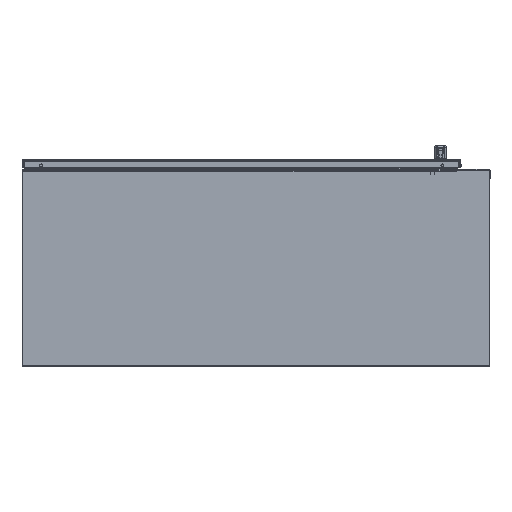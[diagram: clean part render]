
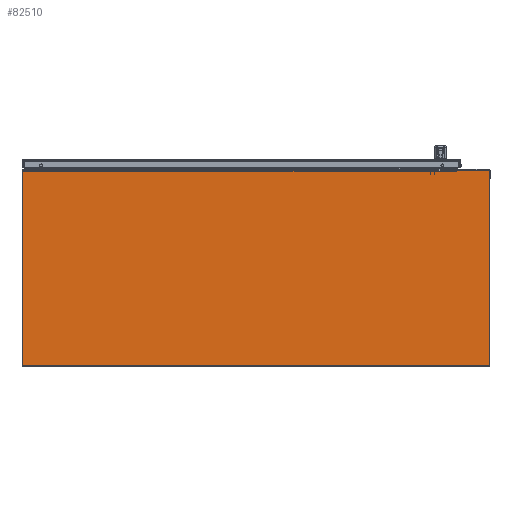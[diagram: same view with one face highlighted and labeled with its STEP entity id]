
A CAD part, front view. The second image highlights one B-rep face of the part: STEP entity #82510.
In plain terms, the highlighted planar face has unit normal (0, -1, 0) as drawn and (0, 0, 1) by its records, which use the part's own axes.
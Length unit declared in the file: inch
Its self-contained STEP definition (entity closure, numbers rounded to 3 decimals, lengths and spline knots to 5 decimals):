
#558 = CARTESIAN_POINT ( 'NONE',  ( -18.13, 15.763, 0.072 ) ) ;
#1298 = CARTESIAN_POINT ( 'NONE',  ( 19.668, 0., 0.072 ) ) ;
#3079 = DIRECTION ( 'NONE',  ( 0., -1., 0. ) ) ;
#3242 = VERTEX_POINT ( 'NONE', #30944 ) ;
#5990 = LINE ( 'NONE', #99715, #69474 ) ;
#6683 = ORIENTED_EDGE ( 'NONE', *, *, #49755, .T. ) ;
#9430 = ORIENTED_EDGE ( 'NONE', *, *, #45693, .T. ) ;
#12569 = LINE ( 'NONE', #63234, #79994 ) ;
#12961 = CARTESIAN_POINT ( 'NONE',  ( 16.99, 15.85, 0.072 ) ) ;
#14003 = CARTESIAN_POINT ( 'NONE',  ( -18.13, 0., 0.072 ) ) ;
#17357 = EDGE_CURVE ( 'NONE', #51949, #38848, #97165, .T. ) ;
#30929 = LINE ( 'NONE', #68652, #77588 ) ;
#30944 = CARTESIAN_POINT ( 'NONE',  ( 16.99, 15.763, 0.072 ) ) ;
#31543 = DIRECTION ( 'NONE',  ( 0., 1., 0. ) ) ;
#34958 = EDGE_CURVE ( 'NONE', #3242, #94383, #80792, .T. ) ;
#38848 = VERTEX_POINT ( 'NONE', #64818 ) ;
#43570 = LINE ( 'NONE', #56866, #103301 ) ;
#45693 = EDGE_CURVE ( 'NONE', #60947, #59664, #12569, .T. ) ;
#48083 = ORIENTED_EDGE ( 'NONE', *, *, #64087, .T. ) ;
#49755 = EDGE_CURVE ( 'NONE', #94383, #60947, #30929, .T. ) ;
#50463 = VECTOR ( 'NONE', #71627, 39.37008 ) ;
#51160 = FACE_OUTER_BOUND ( 'NONE', #81945, .T. ) ;
#51949 = VERTEX_POINT ( 'NONE', #100776 ) ;
#56866 = CARTESIAN_POINT ( 'NONE',  ( 19.668, 15.925, 0.072 ) ) ;
#59664 = VERTEX_POINT ( 'NONE', #1298 ) ;
#60947 = VERTEX_POINT ( 'NONE', #80532 ) ;
#63234 = CARTESIAN_POINT ( 'NONE',  ( -18.13, 0., 0.072 ) ) ;
#63525 = DIRECTION ( 'NONE',  ( -1., 0., 0. ) ) ;
#64087 = EDGE_CURVE ( 'NONE', #59664, #38848, #43570, .T. ) ;
#64818 = CARTESIAN_POINT ( 'NONE',  ( 19.668, 15.85, 0.072 ) ) ;
#66664 = ORIENTED_EDGE ( 'NONE', *, *, #17357, .F. ) ;
#68652 = CARTESIAN_POINT ( 'NONE',  ( -18.13, 15.925, 0.072 ) ) ;
#68882 = EDGE_CURVE ( 'NONE', #51949, #3242, #5990, .T. ) ;
#69474 = VECTOR ( 'NONE', #98289, 39.37008 ) ;
#71627 = DIRECTION ( 'NONE',  ( 1., 0., 0. ) ) ;
#77588 = VECTOR ( 'NONE', #3079, 39.37008 ) ;
#79070 = CARTESIAN_POINT ( 'NONE',  ( 19.668, 15.763, 0.072 ) ) ;
#79994 = VECTOR ( 'NONE', #105253, 39.37008 ) ;
#80532 = CARTESIAN_POINT ( 'NONE',  ( -18.13, 0., 0.072 ) ) ;
#80792 = LINE ( 'NONE', #79070, #88559 ) ;
#81945 = EDGE_LOOP ( 'NONE', ( #48083, #66664, #95126, #95936, #6683, #9430 ) ) ;
#82510 = ADVANCED_FACE ( 'NONE', ( #51160 ), #103809, .T. ) ;
#88559 = VECTOR ( 'NONE', #63525, 39.37008 ) ;
#94383 = VERTEX_POINT ( 'NONE', #558 ) ;
#95126 = ORIENTED_EDGE ( 'NONE', *, *, #68882, .T. ) ;
#95936 = ORIENTED_EDGE ( 'NONE', *, *, #34958, .T. ) ;
#97165 = LINE ( 'NONE', #12961, #50463 ) ;
#98289 = DIRECTION ( 'NONE',  ( 0., -1., 0. ) ) ;
#99131 = AXIS2_PLACEMENT_3D ( 'NONE', #14003, #104173, #104898 ) ;
#99715 = CARTESIAN_POINT ( 'NONE',  ( 16.99, 15.85, 0.072 ) ) ;
#100776 = CARTESIAN_POINT ( 'NONE',  ( 16.99, 15.85, 0.072 ) ) ;
#103301 = VECTOR ( 'NONE', #31543, 39.37008 ) ;
#103809 = PLANE ( 'NONE',  #99131 ) ;
#104173 = DIRECTION ( 'NONE',  ( 0., 0., 1. ) ) ;
#104898 = DIRECTION ( 'NONE',  ( 1., 0., 0. ) ) ;
#105253 = DIRECTION ( 'NONE',  ( 1., 0., 0. ) ) ;
